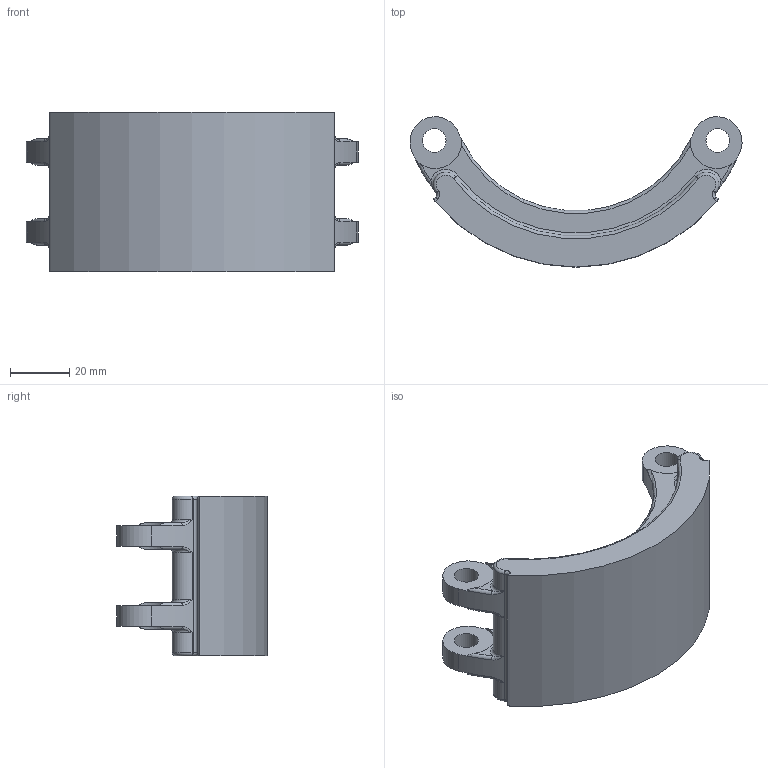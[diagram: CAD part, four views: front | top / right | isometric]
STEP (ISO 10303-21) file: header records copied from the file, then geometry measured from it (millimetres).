
FILE_DESCRIPTION(('Open CASCADE Model'),'2;1');
FILE_NAME('Open CASCADE Shape Model','2026-10-05T09:59:25',('Author'),( 'Open CASCADE'),'Open CASCADE STEP processor 7.9','Open CASCADE 7.9' ,'Unknown');
FILE_SCHEMA(('AUTOMOTIVE_DESIGN { 1 0 10303 214 1 1 1 1 }'));
Length unit declared in the file: millimetre
Products named in the file (1): Open CASCADE STEP translator 7.9 1
Bounding box: 112.14 x 50.78 x 54 mm (x, y, z)
Volume: 82684.9 mm3; surface area: 21414.1 mm2
Topology: 1 solids, 1 shells, 98 faces, 252 edges, 148 vertices
Faces by surface type: torus 38, cylinder 36, plane 16, bspline 8
Full cylindrical faces by diameter (mm): 8 x4
Entity records: 9416 total; most frequent: CARTESIAN_POINT 4711, DIRECTION 872, ORIENTED_EDGE 488, PCURVE 488, DEFINITIONAL_REPRESENTATION 488, LINE 330, VECTOR 330, AXIS2_PLACEMENT_3D 249
